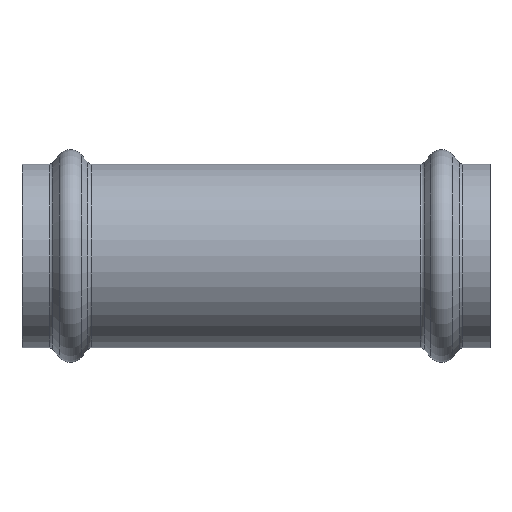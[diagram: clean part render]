
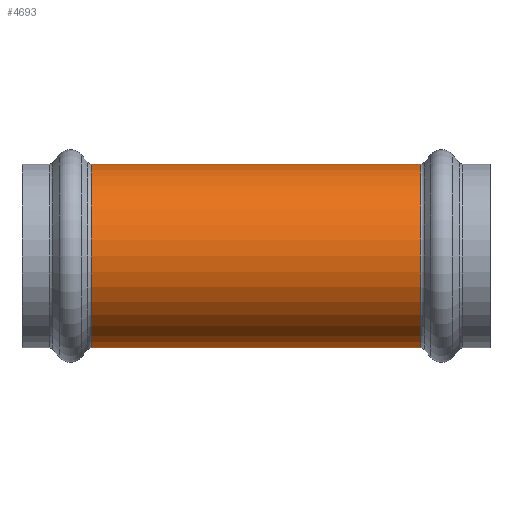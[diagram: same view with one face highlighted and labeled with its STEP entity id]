
A CAD part, front view. The second image highlights one B-rep face of the part: STEP entity #4693.
In plain terms, the highlighted cylindrical face has radius 19.05 mm (diameter 38.1 mm), a partial arc.
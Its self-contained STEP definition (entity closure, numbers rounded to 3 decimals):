
#44 = CARTESIAN_POINT ( 'NONE',  ( -58.611, 0., 0. ) ) ;
#111 = ORIENTED_EDGE ( 'NONE', *, *, #1021, .T. ) ;
#326 = DIRECTION ( 'NONE',  ( -1., 0., 0. ) ) ;
#386 = CYLINDRICAL_SURFACE ( 'NONE', #1381, 19.05 ) ;
#428 = ORIENTED_EDGE ( 'NONE', *, *, #3782, .F. ) ;
#547 = CARTESIAN_POINT ( 'NONE',  ( -34.129, 0., 0. ) ) ;
#677 = VERTEX_POINT ( 'NONE', #1284 ) ;
#702 = EDGE_LOOP ( 'NONE', ( #428, #2458, #111, #3363 ) ) ;
#863 = VECTOR ( 'NONE', #2264, 1000. ) ;
#916 = DIRECTION ( 'NONE',  ( 0., 0., -1. ) ) ;
#1021 = EDGE_CURVE ( 'NONE', #2140, #677, #1795, .T. ) ;
#1072 = CARTESIAN_POINT ( 'NONE',  ( 34.129, 0., 19.05 ) ) ;
#1228 = VERTEX_POINT ( 'NONE', #3322 ) ;
#1284 = CARTESIAN_POINT ( 'NONE',  ( -34.129, 0., 19.05 ) ) ;
#1381 = AXIS2_PLACEMENT_3D ( 'NONE', #44, #1526, #4589 ) ;
#1526 = DIRECTION ( 'NONE',  ( -1., 0., 0. ) ) ;
#1534 = AXIS2_PLACEMENT_3D ( 'NONE', #547, #3232, #916 ) ;
#1601 = AXIS2_PLACEMENT_3D ( 'NONE', #4184, #1884, #4573 ) ;
#1795 = LINE ( 'NONE', #1819, #3731 ) ;
#1819 = CARTESIAN_POINT ( 'NONE',  ( -58.611, 0., 19.05 ) ) ;
#1884 = DIRECTION ( 'NONE',  ( -1., 0., 0. ) ) ;
#2140 = VERTEX_POINT ( 'NONE', #1072 ) ;
#2249 = VERTEX_POINT ( 'NONE', #3080 ) ;
#2264 = DIRECTION ( 'NONE',  ( -1., 0., 0. ) ) ;
#2458 = ORIENTED_EDGE ( 'NONE', *, *, #3799, .T. ) ;
#2791 = CIRCLE ( 'NONE', #1601, 19.05 ) ;
#3022 = CARTESIAN_POINT ( 'NONE',  ( -58.611, 0., -19.05 ) ) ;
#3080 = CARTESIAN_POINT ( 'NONE',  ( 34.129, 0., -19.05 ) ) ;
#3169 = EDGE_CURVE ( 'NONE', #677, #1228, #3227, .T. ) ;
#3227 = CIRCLE ( 'NONE', #1534, 19.05 ) ;
#3232 = DIRECTION ( 'NONE',  ( 1., 0., 0. ) ) ;
#3322 = CARTESIAN_POINT ( 'NONE',  ( -34.129, 0., -19.05 ) ) ;
#3363 = ORIENTED_EDGE ( 'NONE', *, *, #3169, .T. ) ;
#3573 = LINE ( 'NONE', #3022, #863 ) ;
#3731 = VECTOR ( 'NONE', #326, 1000. ) ;
#3782 = EDGE_CURVE ( 'NONE', #2249, #1228, #3573, .T. ) ;
#3799 = EDGE_CURVE ( 'NONE', #2249, #2140, #2791, .T. ) ;
#4184 = CARTESIAN_POINT ( 'NONE',  ( 34.129, 0., 0. ) ) ;
#4451 = FACE_OUTER_BOUND ( 'NONE', #702, .T. ) ;
#4573 = DIRECTION ( 'NONE',  ( 0., 0., 1. ) ) ;
#4589 = DIRECTION ( 'NONE',  ( 0., 0., 1. ) ) ;
#4693 = ADVANCED_FACE ( 'NONE', ( #4451 ), #386, .T. ) ;
